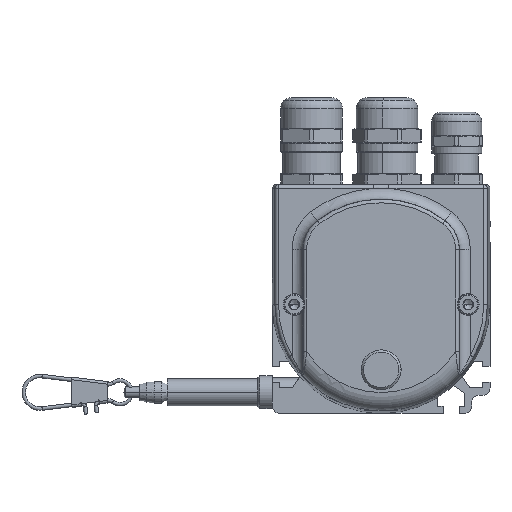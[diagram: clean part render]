
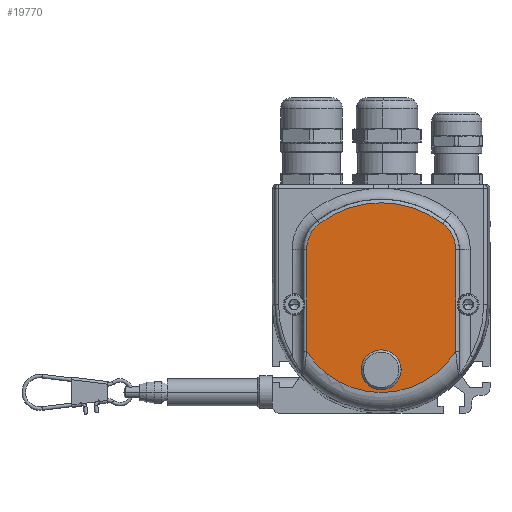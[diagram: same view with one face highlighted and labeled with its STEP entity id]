
A CAD part, left-side view. The second image highlights one B-rep face of the part: STEP entity #19770.
In plain terms, the highlighted planar face has unit normal (-1, 0, 0) as drawn and (0, 0, 1) by its records, which use the part's own axes.
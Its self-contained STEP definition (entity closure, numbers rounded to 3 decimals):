
#5317=DIRECTION('',(0.,-1.,0.));
#5318=VECTOR('',#5317,28.053);
#5319=CARTESIAN_POINT('',(20.534,12.928,70.75));
#5320=LINE('',#5319,#5318);
#5687=CARTESIAN_POINT('',(0.,18.,70.75));
#5688=DIRECTION('',(0.,0.,-1.));
#5689=DIRECTION('',(-1.,0.,0.));
#5690=AXIS2_PLACEMENT_3D('',#5687,#5688,#5689);
#5695=CARTESIAN_POINT('',(0.,18.,70.75));
#5696=DIRECTION('',(0.,0.,-1.));
#5697=DIRECTION('',(1.,0.,0.));
#5698=AXIS2_PLACEMENT_3D('',#5695,#5696,#5697);
#5703=CARTESIAN_POINT('',(11.5,-15.124,70.75));
#5704=DIRECTION('',(0.,0.,1.));
#5705=DIRECTION('',(0.605,-0.796,0.));
#5706=AXIS2_PLACEMENT_3D('',#5703,#5704,#5705);
#5711=CARTESIAN_POINT('',(0.,0.,70.75));
#5712=DIRECTION('',(0.,0.,1.));
#5713=DIRECTION('',(-0.605,-0.796,0.));
#5714=AXIS2_PLACEMENT_3D('',#5711,#5712,#5713);
#5719=CARTESIAN_POINT('',(-11.5,-15.124,70.75));
#5720=DIRECTION('',(0.,0.,1.));
#5721=DIRECTION('',(-1.,0.,0.));
#5722=AXIS2_PLACEMENT_3D('',#5719,#5720,#5721);
#5727=CARTESIAN_POINT('',(0.,0.,70.75));
#5728=DIRECTION('',(0.,0.,1.));
#5729=DIRECTION('',(0.846,0.533,0.));
#5730=AXIS2_PLACEMENT_3D('',#5727,#5728,#5729);
#5893=DIRECTION('',(0.,1.,0.));
#5894=VECTOR('',#5893,28.053);
#5895=CARTESIAN_POINT('',(-20.534,-15.124,70.75));
#5896=LINE('',#5895,#5894);
#13548=CARTESIAN_POINT('',(-20.534,-15.124,70.75));
#13550=VERTEX_POINT('',#13548);
#13554=CARTESIAN_POINT('',(-16.968,-22.316,70.75));
#13555=VERTEX_POINT('',#13554);
#13557=CARTESIAN_POINT('',(16.968,-22.316,70.75));
#13559=VERTEX_POINT('',#13557);
#13562=CARTESIAN_POINT('',(20.534,-15.124,70.75));
#13563=VERTEX_POINT('',#13562);
#13564=CARTESIAN_POINT('',(20.534,12.928,70.75));
#13565=VERTEX_POINT('',#13564);
#13566=CARTESIAN_POINT('',(-20.534,12.928,70.75));
#13567=VERTEX_POINT('',#13566);
#14306=CARTESIAN_POINT('',(-5.5,18.,70.75));
#14307=VERTEX_POINT('',#14306);
#14308=CARTESIAN_POINT('',(5.5,18.,70.75));
#14309=VERTEX_POINT('',#14308);
#19747=CARTESIAN_POINT('',(0.,0.,70.75));
#19748=DIRECTION('',(0.,0.,1.));
#19749=DIRECTION('',(1.,0.,0.));
#19750=AXIS2_PLACEMENT_3D('',#19747,#19748,#19749);
#19751=PLANE('',#19750);
#19752=ORIENTED_EDGE('',*,*,#19297,.T.);
#19754=ORIENTED_EDGE('',*,*,#19753,.F.);
#19756=ORIENTED_EDGE('',*,*,#19755,.F.);
#19758=ORIENTED_EDGE('',*,*,#19757,.F.);
#19760=ORIENTED_EDGE('',*,*,#19759,.T.);
#19761=ORIENTED_EDGE('',*,*,#19730,.F.);
#19762=EDGE_LOOP('',(#19752,#19754,#19756,#19758,#19760,#19761));
#19763=FACE_OUTER_BOUND('',#19762,.F.);
#19765=ORIENTED_EDGE('',*,*,#19764,.F.);
#19767=ORIENTED_EDGE('',*,*,#19766,.F.);
#19768=EDGE_LOOP('',(#19765,#19767));
#19769=FACE_BOUND('',#19768,.F.);
#5691=CIRCLE('',#5690,5.5);
#5699=CIRCLE('',#5698,5.5);
#5707=CIRCLE('',#5706,9.034);
#5715=CIRCLE('',#5714,28.034);
#5723=CIRCLE('',#5722,9.034);
#5731=CIRCLE('',#5730,24.265);
#19297=EDGE_CURVE('',#13565,#13563,#5320,.T.);
#19730=EDGE_CURVE('',#13565,#13567,#5731,.T.);
#19753=EDGE_CURVE('',#13559,#13563,#5707,.T.);
#19755=EDGE_CURVE('',#13555,#13559,#5715,.T.);
#19757=EDGE_CURVE('',#13550,#13555,#5723,.T.);
#19759=EDGE_CURVE('',#13550,#13567,#5896,.T.);
#19764=EDGE_CURVE('',#14307,#14309,#5691,.T.);
#19766=EDGE_CURVE('',#14309,#14307,#5699,.T.);
#19770=ADVANCED_FACE('',(#19763,#19769),#19751,.T.);
